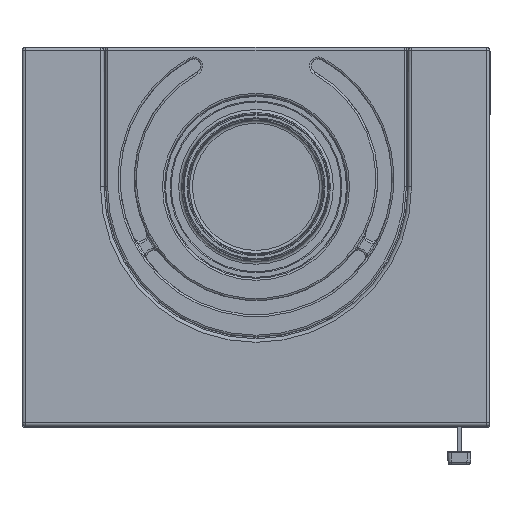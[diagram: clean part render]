
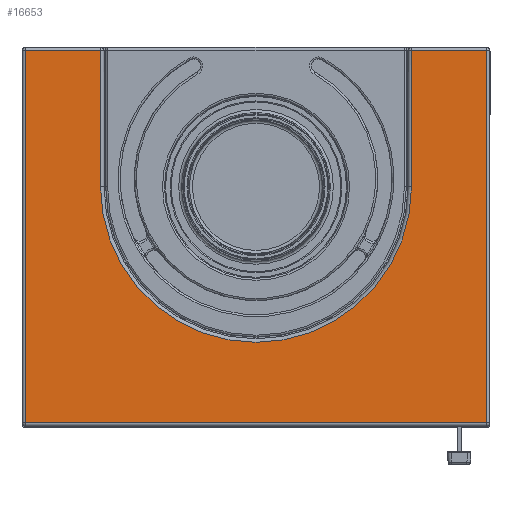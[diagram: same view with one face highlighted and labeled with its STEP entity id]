
A CAD part, top view. The second image highlights one B-rep face of the part: STEP entity #16653.
In plain terms, the highlighted planar face has unit normal (0, 0, 1).
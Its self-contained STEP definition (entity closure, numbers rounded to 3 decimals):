
#1147=CIRCLE('',#18791,153.8);
#2693=ORIENTED_EDGE('',*,*,#6869,.T.);
#2694=ORIENTED_EDGE('',*,*,#6870,.T.);
#2695=ORIENTED_EDGE('',*,*,#6871,.T.);
#2696=ORIENTED_EDGE('',*,*,#6872,.T.);
#2697=ORIENTED_EDGE('',*,*,#6873,.T.);
#2698=ORIENTED_EDGE('',*,*,#6874,.T.);
#2699=ORIENTED_EDGE('',*,*,#6867,.T.);
#2700=ORIENTED_EDGE('',*,*,#6875,.T.);
#6867=EDGE_CURVE('',#8998,#8997,#10532,.T.);
#6869=EDGE_CURVE('',#8999,#9000,#1147,.F.);
#6870=EDGE_CURVE('',#9000,#9001,#10533,.F.);
#6871=EDGE_CURVE('',#9001,#9002,#10534,.T.);
#6872=EDGE_CURVE('',#9002,#9003,#10535,.T.);
#6873=EDGE_CURVE('',#9003,#9004,#10536,.F.);
#6874=EDGE_CURVE('',#9004,#8998,#10537,.F.);
#6875=EDGE_CURVE('',#8997,#8999,#10538,.F.);
#8997=VERTEX_POINT('',#26901);
#8998=VERTEX_POINT('',#26903);
#8999=VERTEX_POINT('',#26907);
#9000=VERTEX_POINT('',#26908);
#9001=VERTEX_POINT('',#26910);
#9002=VERTEX_POINT('',#26912);
#9003=VERTEX_POINT('',#26914);
#9004=VERTEX_POINT('',#26916);
#10532=LINE('',#26902,#11764);
#10533=LINE('',#26909,#11765);
#10534=LINE('',#26911,#11766);
#10535=LINE('',#26913,#11767);
#10536=LINE('',#26915,#11768);
#10537=LINE('',#26917,#11769);
#10538=LINE('',#26918,#11770);
#11764=VECTOR('',#21330,1000.);
#11765=VECTOR('',#21337,1000.);
#11766=VECTOR('',#21338,1000.);
#11767=VECTOR('',#21339,1000.);
#11768=VECTOR('',#21340,1000.);
#11769=VECTOR('',#21341,1000.);
#11770=VECTOR('',#21342,1000.);
#12931=EDGE_LOOP('',(#2693,#2694,#2695,#2696,#2697,#2698,#2699,#2700));
#14517=FACE_BOUND('',#12931,.T.);
#15974=PLANE('',#18790);
#16653=ADVANCED_FACE('',(#14517),#15974,.T.);
#18790=AXIS2_PLACEMENT_3D('',#26905,#21333,#21334);
#18791=AXIS2_PLACEMENT_3D('',#26906,#21335,#21336);
#21330=DIRECTION('',(-1.,0.,0.));
#21333=DIRECTION('',(0.,0.,1.));
#21334=DIRECTION('',(1.,0.,0.));
#21335=DIRECTION('',(0.,0.,1.));
#21336=DIRECTION('',(1.,0.,0.));
#21337=DIRECTION('',(0.,-1.,0.));
#21338=DIRECTION('',(-1.,0.,0.));
#21339=DIRECTION('',(0.,-1.,0.));
#21340=DIRECTION('',(-1.,0.,0.));
#21341=DIRECTION('',(0.,-1.,0.));
#21342=DIRECTION('',(0.,1.,0.));
#26901=CARTESIAN_POINT('',(153.8,329.1,509.5));
#26902=CARTESIAN_POINT('',(-231.5,329.1,509.5));
#26903=CARTESIAN_POINT('',(228.1,329.1,509.5));
#26905=CARTESIAN_POINT('',(-231.5,332.5,509.5));
#26906=CARTESIAN_POINT('',(0.,194.5,509.5));
#26907=CARTESIAN_POINT('',(153.8,194.5,509.5));
#26908=CARTESIAN_POINT('',(-153.8,194.5,509.5));
#26909=CARTESIAN_POINT('',(-153.8,329.1,509.5));
#26910=CARTESIAN_POINT('',(-153.8,329.1,509.5));
#26911=CARTESIAN_POINT('',(-231.5,329.1,509.5));
#26912=CARTESIAN_POINT('',(-228.1,329.1,509.5));
#26913=CARTESIAN_POINT('',(-228.1,332.5,509.5));
#26914=CARTESIAN_POINT('',(-228.1,-39.1,509.5));
#26915=CARTESIAN_POINT('',(-231.5,-39.1,509.5));
#26916=CARTESIAN_POINT('',(228.1,-39.1,509.5));
#26917=CARTESIAN_POINT('',(228.1,332.5,509.5));
#26918=CARTESIAN_POINT('',(153.8,194.5,509.5));
